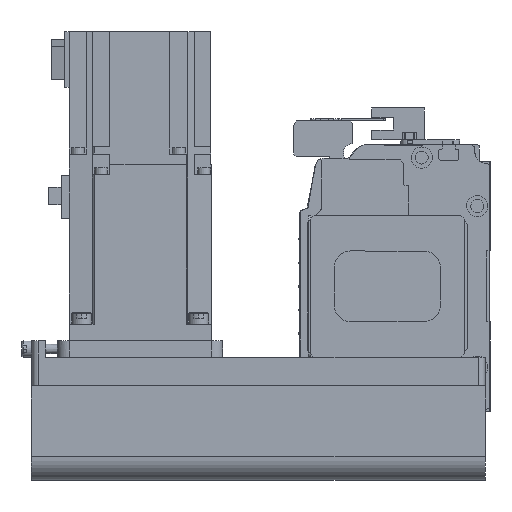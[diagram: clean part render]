
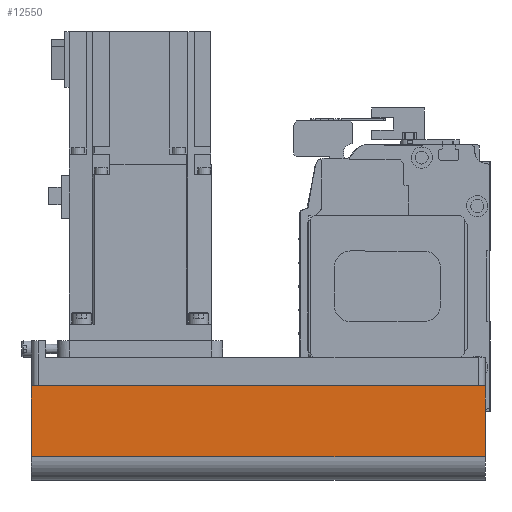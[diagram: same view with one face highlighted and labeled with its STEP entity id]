
A CAD part, left-side view. The second image highlights one B-rep face of the part: STEP entity #12550.
In plain terms, the highlighted planar face has unit normal (-1, 0, 0) as drawn and (0, -1, 0) by its records, which use the part's own axes.
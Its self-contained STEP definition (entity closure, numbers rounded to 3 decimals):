
#2259=ORIENTED_EDGE('',*,*,#5083,.F.);
#2260=ORIENTED_EDGE('',*,*,#5049,.F.);
#2261=ORIENTED_EDGE('',*,*,#5072,.T.);
#2262=ORIENTED_EDGE('',*,*,#5116,.T.);
#5049=EDGE_CURVE('',#6627,#6628,#7891,.T.);
#5072=EDGE_CURVE('',#6627,#6646,#7910,.T.);
#5083=EDGE_CURVE('',#6628,#6654,#7919,.T.);
#5116=EDGE_CURVE('',#6646,#6654,#7932,.T.);
#6627=VERTEX_POINT('',#19573);
#6628=VERTEX_POINT('',#19575);
#6646=VERTEX_POINT('',#19618);
#6654=VERTEX_POINT('',#19642);
#7891=LINE('',#19574,#9119);
#7910=LINE('',#19619,#9138);
#7919=LINE('',#19641,#9147);
#7932=LINE('',#19699,#9160);
#9119=VECTOR('',#15716,1000.);
#9138=VECTOR('',#15749,1000.);
#9147=VECTOR('',#15770,1000.);
#9160=VECTOR('',#15855,1000.);
#10216=EDGE_LOOP('',(#2259,#2260,#2261,#2262));
#11182=FACE_BOUND('',#10216,.T.);
#11979=PLANE('',#13533);
#12550=ADVANCED_FACE('',(#11182),#11979,.T.);
#13533=AXIS2_PLACEMENT_3D('',#19700,#15856,#15857);
#15716=DIRECTION('',(1.,0.,0.));
#15749=DIRECTION('',(0.,0.,-1.));
#15770=DIRECTION('',(0.,0.,-1.));
#15855=DIRECTION('',(1.,0.,0.));
#15856=DIRECTION('',(0.,-1.,0.));
#15857=DIRECTION('',(0.,0.,-1.));
#19573=CARTESIAN_POINT('',(-192.,-40.,-12.1));
#19574=CARTESIAN_POINT('',(-192.,-40.,-12.1));
#19575=CARTESIAN_POINT('',(0.,-40.,-12.1));
#19618=CARTESIAN_POINT('',(-192.,-40.,-42.));
#19619=CARTESIAN_POINT('',(-192.,-40.,-12.1));
#19641=CARTESIAN_POINT('',(0.,-40.,-12.1));
#19642=CARTESIAN_POINT('',(0.,-40.,-42.));
#19699=CARTESIAN_POINT('',(-192.,-40.,-42.));
#19700=CARTESIAN_POINT('',(-192.,-40.,-12.1));
